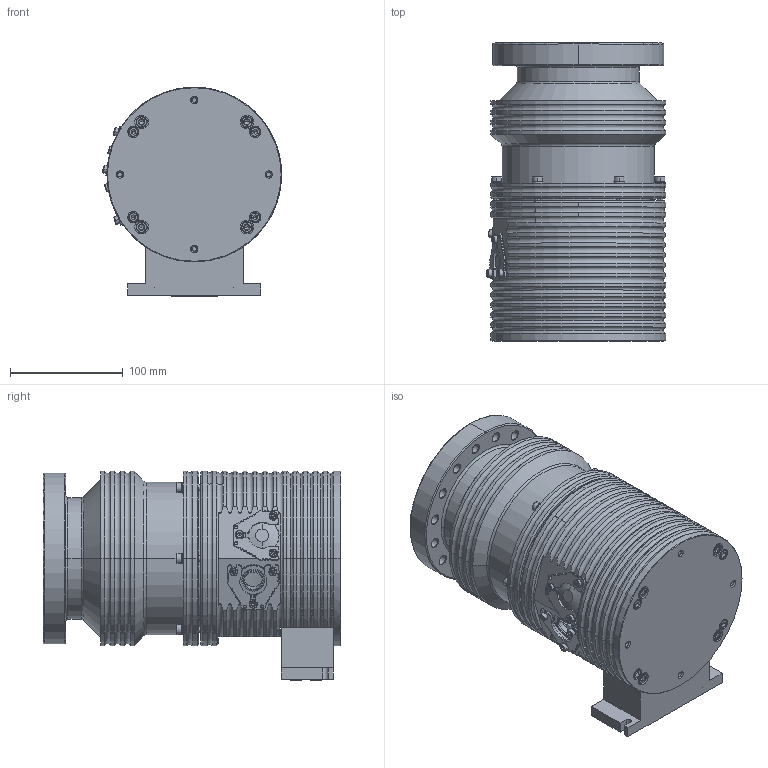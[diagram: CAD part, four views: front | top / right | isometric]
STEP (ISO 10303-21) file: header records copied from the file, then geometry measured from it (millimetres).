
FILE_DESCRIPTION((''),'2;1');
FILE_NAME('857000278_SW0001','2009-12-08T',('L0100513'),('Copyright by Leybold GmbH'),'PRO/ENGINEER BY PARAMETRIC TECHNOLOGY CORPORATION, 2009380','PRO/ENGINEER BY PARAMETRIC TECHNOLOGY CORPORATION, 2009380','');
FILE_SCHEMA(('AUTOMOTIVE_DESIGN { 1 0 10303 214 1 1 1 1 }'));
Products named in the file (1): 857000278_SW0001
Bounding box: 159.03 x 264.25 x 186 mm (x, y, z)
Volume: 4161336 mm3; surface area: 286320.7 mm2
Topology: 3 solids, 5 shells, 1641 faces, 4076 edges, 2441 vertices
Faces by surface type: cylinder 530, plane 473, cone 382, torus 156, sphere 100
Entity records: 64400 total; most frequent: CARTESIAN_POINT 13269, DIRECTION 8823, ORIENTED_EDGE 7824, EDGE_CURVE 3912, AXIS2_PLACEMENT_3D 3489, VERTEX_POINT 2441, EDGE_LOOP 1875, CIRCLE 1848
